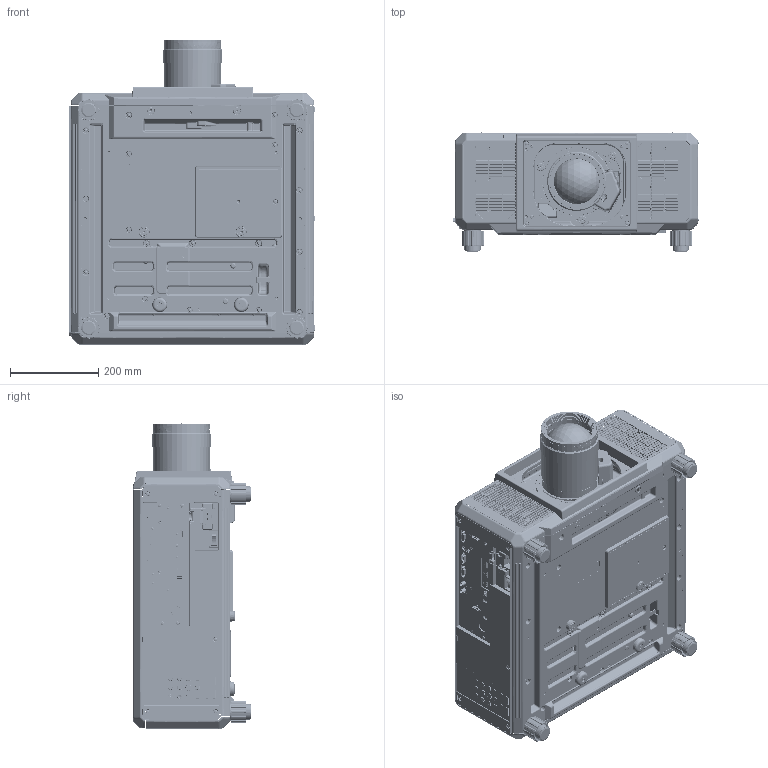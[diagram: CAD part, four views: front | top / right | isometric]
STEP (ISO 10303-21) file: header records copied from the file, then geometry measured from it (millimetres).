
FILE_DESCRIPTION(/* description */ (''),/* implementation_level */ '2;1');
FILE_NAME(/* name */ '01102988_ZA00_RQ25K_D3LES20_FACE.stp',/* time_stamp */ '2022-12-05T15:17:50+09:00',/* author */ (''),/* organization */ (''),/* preprocessor_version */ 'ST-DEVELOPER v16',/* originating_system */ 'SIEMENS PLM Software NX 10.0',/* authorisation */ '');
FILE_SCHEMA (('AUTOMOTIVE_DESIGN { 1 0 10303 214 3 1 1 1 }'));
Products named in the file (1): 01102988_ZA00
Bounding box: 556.3 x 269 x 691.72 mm (x, y, z)
Surface area: 2078376 mm2 (no closed solid volume)
Topology: 0 solids, 2266 shells, 10418 faces, 49694 edges, 40953 vertices
Faces by surface type: plane 5171, cylinder 4080, torus 458, bspline 394, cone 194, sphere 119, extrusion 2
Full cylindrical faces by diameter (mm): 1.02 x2, 3 x5, 3.3 x1, 3.6 x2, 5 x3, 6 x2, 7 x2, 8 x2, 9.5 x2, 14.9 x1, 23.647 x1, 37.2 x4, 40 x4, 77.3 x2, 80 x2, 102.8 x2, 104 x2, 105.8 x2, 107.6 x2, 109 x3, 109.4 x2, 111.2 x2, 113 x2, 114.8 x2, 116.8 x2, 120 x2, 125.6 x2, 126.2 x1, 126.6 x2, 128.6 x4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
Entity records: 614929 total; most frequent: CARTESIAN_POINT 160578, DIRECTION 79818, ORIENTED_EDGE 59523, EDGE_CURVE 49119, VERTEX_POINT 40788, VECTOR 26996, LINE 26994, AXIS2_PLACEMENT_3D 26411
